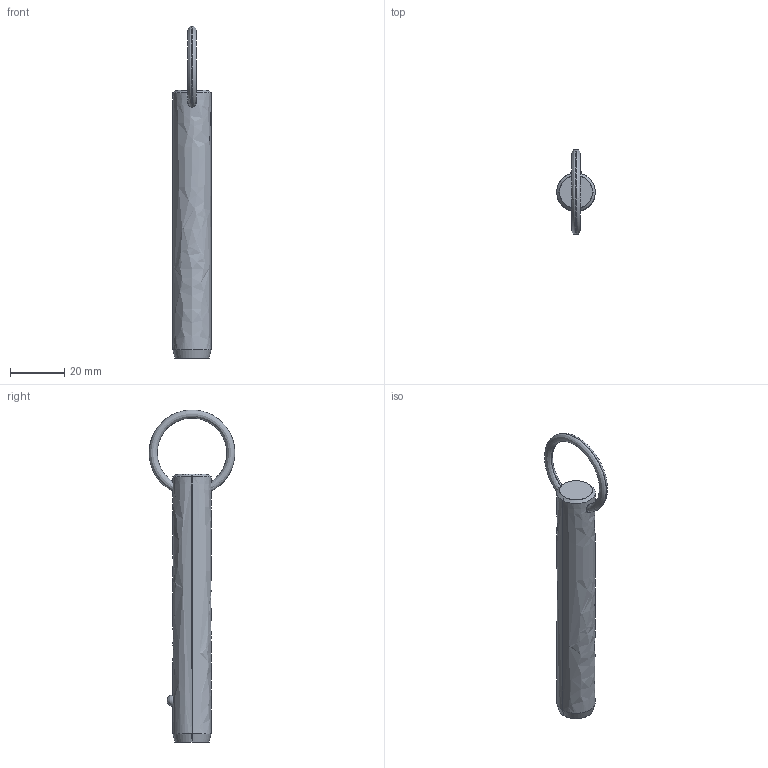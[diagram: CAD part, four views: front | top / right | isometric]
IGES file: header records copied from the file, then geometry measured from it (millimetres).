
Start section: SolidWorks IGES file using analytic representation for surfaces
Global section: file name: C:\Users\liam_\OneDrive\Documents\WORK\Work for WixRoyd\Job Files\J-00019 - Matt Davis CAD Checking\04. CAD Drawings\automotion20190605\P1250.2_v2\P1250.2_v2_20190729_IGES\P1250.056-290.igs; native system: SolidWorks 2017; preprocessor: SolidWorks 2017; author: liam_; date: 190729.231929; units: millimetre
Bounding box: 14.2 x 31.7 x 122.79 mm (x, y, z)
Surface area: 5382.3 mm2 (no closed solid volume)
Topology: 0 solids, 0 shells, 12 faces, 285 edges, 283 vertices
Faces by surface type: revolution 8, bspline 4
